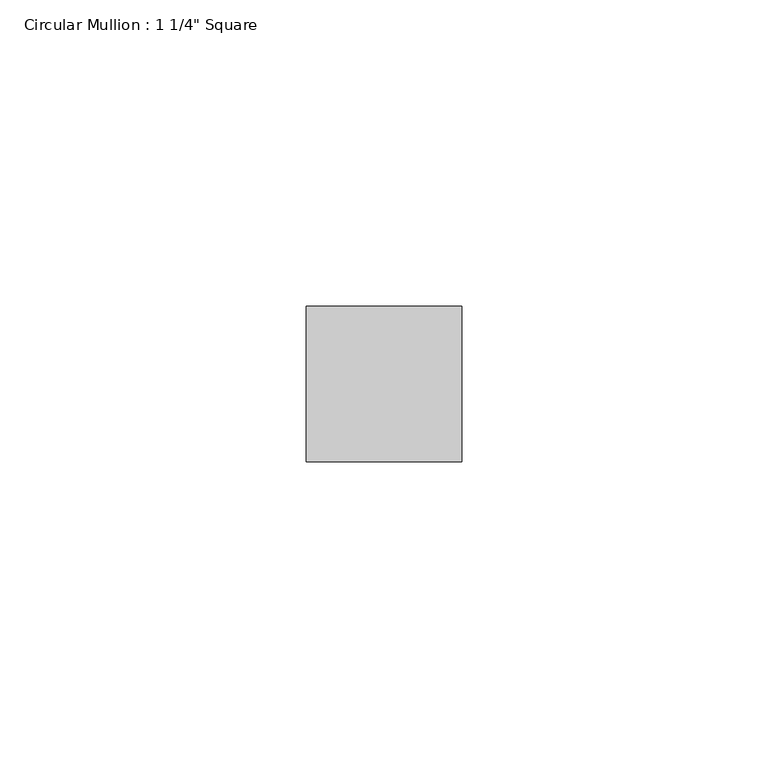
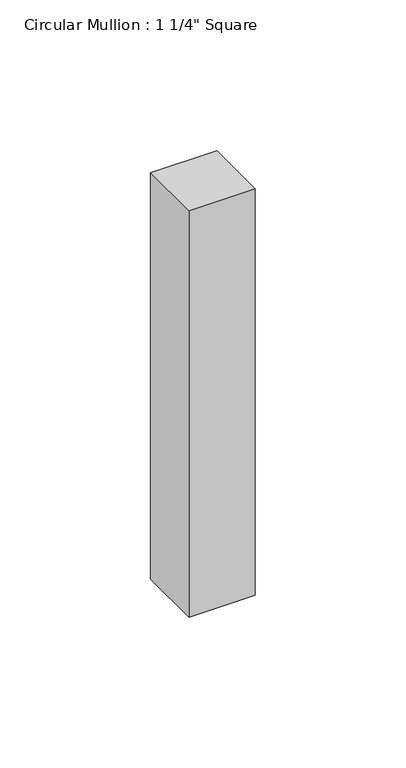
"""IFC4 building model written with IfcOpenShell, lengths in millimetres: member geometry."""

import ifcopenshell
import ifcopenshell.guid

model = None  # the IFC model being written
_history = None  # IfcOwnerHistory: only IFC2X3 demands one
_inside = {}  # id of a spatial element -> (the spatial element, [elements in it])
_under = {}  # id of a project, library or spatial element -> (it, [spatial elements below it])
_declared = {}  # id of a project -> (the project, [libraries it declares])
_typed = {}  # id of a type object -> (the type object, [elements of that type])
_made_of = {}  # id of a material, layer set ... -> (it, [elements and type objects made of it])


def new_model(schema):
    """Start an empty IFC model of exactly this schema.

    Asked for "IFC4X3", IfcOpenShell would pick the latest addendum, in which some entities
    have other attributes; the version numbers below select the first issue.
    IFC2X3 requires an IfcOwnerHistory on every rooted entity: one is made here for all.
    """
    global model, _history
    if schema == "IFC4X3":
        model = ifcopenshell.file(schema_version=(4, 3, 0, 0))
    else:
        model = ifcopenshell.file(schema=schema)
    _inside.clear()
    _under.clear()
    _declared.clear()
    _typed.clear()
    _made_of.clear()
    _history = None
    if model.schema == "IFC2X3":
        org = make("IfcOrganization", Name="unknown")
        user = make(
            "IfcPersonAndOrganization",
            ThePerson=make("IfcPerson", FamilyName="unknown"),
            TheOrganization=org,
        )
        app = make(
            "IfcApplication",
            ApplicationDeveloper=org,
            Version="unknown",
            ApplicationFullName="unknown",
            ApplicationIdentifier="unknown",
        )
        _history = make(
            "IfcOwnerHistory",
            OwningUser=user,
            OwningApplication=app,
            ChangeAction="ADDED",
            CreationDate=0,
        )
    return model


def make(cls, **values):
    """One entity of the class cls with the attributes given. An attribute that is None is left unset."""
    return model.create_entity(
        cls, **{name: value for name, value in values.items() if value is not None}
    )


def rooted(cls, **values):
    """An entity with a GlobalId (a new one), such as an element, a storey or a relation."""
    return make(cls, GlobalId=ifcopenshell.guid.new(), OwnerHistory=_history, **values)


def si_unit(unit_type, name, prefix=None):
    """IfcSIUnit, for example si_unit("LENGTHUNIT", "METRE", prefix="MILLI")."""
    return make("IfcSIUnit", UnitType=unit_type, Prefix=prefix, Name=name)


def assignment(units):
    """IfcUnitAssignment: the units of a project."""
    return None if units is None else make("IfcUnitAssignment", Units=units)


def point(xyz):
    """IfcCartesianPoint."""
    return None if xyz is None else make("IfcCartesianPoint", Coordinates=xyz)


def direction(xyz):
    """IfcDirection."""
    return None if xyz is None else make("IfcDirection", DirectionRatios=xyz)


def frame(location, z_axis=None, x_axis=None):
    """IfcAxis2Placement3D, a coordinate frame: its origin and axes. An axis left out is left unset."""
    return make(
        "IfcAxis2Placement3D",
        Location=point(location),
        Axis=direction(z_axis),
        RefDirection=direction(x_axis),
    )


def origin():
    """The frame at (0, 0, 0) with its axes left unset."""
    return frame((0.0, 0.0, 0.0))


def place(relative_to, where):
    """IfcLocalPlacement: puts the frame where relative to a parent placement (None: the world)."""
    return make(
        "IfcLocalPlacement", PlacementRelTo=relative_to, RelativePlacement=where
    )


def context(
    kind, dimensions, precision=None, world=None, true_north=None, identifier=None
):
    """IfcGeometricRepresentationContext, for example the 3D "Model" context."""
    return make(
        "IfcGeometricRepresentationContext",
        ContextIdentifier=identifier,
        ContextType=kind,
        CoordinateSpaceDimension=dimensions,
        Precision=precision,
        WorldCoordinateSystem=world,
        TrueNorth=true_north,
    )


def project(units=None, contexts=None):
    """IfcProject with its units and contexts."""
    return rooted(
        "IfcProject",
        Name="project",
        RepresentationContexts=contexts,
        UnitsInContext=assignment(units),
    )


def spatial(cls, under=None, at=None, **own):
    """A site, building, storey or space (cls), placed at a placement, below another one or the project."""
    s = rooted(cls, ObjectPlacement=at, **own)
    if under is not None:
        _under.setdefault(under.id(), (under, []))[1].append(s)
    return s


def polyline(points):
    """IfcPolyline through the points."""
    return make("IfcPolyline", Points=[point(p) for p in points])


def outline(outer, holes=None, kind="AREA"):
    """IfcArbitraryClosedProfileDef: a profile drawn as a closed curve; with holes, ...WithVoids."""
    if holes is None:
        return make("IfcArbitraryClosedProfileDef", ProfileType=kind, OuterCurve=outer)
    return make(
        "IfcArbitraryProfileDefWithVoids",
        ProfileType=kind,
        OuterCurve=outer,
        InnerCurves=holes,
    )


def extrude(swept, where, along, depth):
    """IfcExtrudedAreaSolid: the profile swept, set in the frame where, extruded along a direction by depth."""
    return make(
        "IfcExtrudedAreaSolid",
        SweptArea=swept,
        Position=where,
        ExtrudedDirection=direction(along),
        Depth=depth,
    )


def shape(context_of_items, identifier, shape_type, items):
    """IfcShapeRepresentation: the items that make up one representation, for example the "Body"."""
    return make(
        "IfcShapeRepresentation",
        ContextOfItems=context_of_items,
        RepresentationIdentifier=identifier,
        RepresentationType=shape_type,
        Items=items,
    )


def source(mapping_origin, context_of_items, identifier, shape_type, items):
    """IfcRepresentationMap: a shape defined once, which mapped items show again and again."""
    return make(
        "IfcRepresentationMap",
        MappingOrigin=mapping_origin,
        MappedRepresentation=shape(context_of_items, identifier, shape_type, items),
    )


def transform(
    local_origin,
    x_axis=None,
    y_axis=None,
    z_axis=None,
    scale=None,
    scale2=None,
    scale3=None,
    uniform=True,
):
    """IfcCartesianTransformationOperator3D, or its non-uniform kind. x_axis, y_axis, z_axis: its Axis1, 2, 3."""
    if uniform:
        return make(
            "IfcCartesianTransformationOperator3D",
            Axis1=direction(x_axis),
            Axis2=direction(y_axis),
            LocalOrigin=point(local_origin),
            Scale=scale,
            Axis3=direction(z_axis),
        )
    return make(
        "IfcCartesianTransformationOperator3DnonUniform",
        Axis1=direction(x_axis),
        Axis2=direction(y_axis),
        LocalOrigin=point(local_origin),
        Scale=scale,
        Axis3=direction(z_axis),
        Scale2=scale2,
        Scale3=scale3,
    )


def mapped(mapping_source, mapping_target):
    """IfcMappedItem: shows the shape of a source again, moved by a transform."""
    return make(
        "IfcMappedItem", MappingSource=mapping_source, MappingTarget=mapping_target
    )


def made_of(thing, what):
    """Note that an element or type object is made of a material, layer set ...; save() writes the relation."""
    if what is not None:
        _made_of.setdefault(what.id(), (what, []))[1].append(thing)
    return thing


def element(
    cls,
    number,
    at=None,
    inside=None,
    cuts=None,
    type_object=None,
    material=None,
    context=None,
    identifier="Body",
    shape_type=None,
    held_by="IfcProductDefinitionShape",
    body=None,
    shapes=None,
    **own,
):
    """One element of the class cls, such as IfcWall. Its Tag is "e" and its number.

    at: its placement. inside: the storey or other place that contains it. cuts: it is an
    opening in that element (IfcRelVoidsElement). A single representation is given by context,
    identifier, shape_type and body (its items); several are given by shapes. held_by: the class
    of the entity that holds the representations. save() writes the other relations.
    """
    e = rooted(cls, Tag="e%d" % number, ObjectPlacement=at, **own)
    if body is not None:
        shapes = [shape(context, identifier, shape_type, body)]
    if shapes is not None:
        e.Representation = make(held_by, Representations=shapes)
    if inside is not None:
        _inside.setdefault(inside.id(), (inside, []))[1].append(e)
    if cuts is not None:
        rooted(
            "IfcRelVoidsElement", RelatingBuildingElement=cuts, RelatedOpeningElement=e
        )
    if type_object is not None:
        _typed.setdefault(type_object.id(), (type_object, []))[1].append(e)
    return made_of(e, material)


def aggregate(whole, parts):
    """IfcRelAggregates: a whole, such as a stair, and the parts it consists of."""
    return rooted("IfcRelAggregates", RelatingObject=whole, RelatedObjects=parts)


def save(model, path):
    """Write the relations noted so far, then the file.

    IfcRelAggregates (storeys below a building ...), IfcRelContainedInSpatialStructure (elements
    in a storey), IfcRelDefinesByType, IfcRelAssociatesMaterial and IfcRelDeclares: one each for
    every whole, place, type object, material and project.
    """
    for whole, parts in _under.values():
        aggregate(whole, parts)
    for where, things in _inside.values():
        rooted(
            "IfcRelContainedInSpatialStructure",
            RelatedElements=things,
            RelatingStructure=where,
        )
    for kind, things in _typed.values():
        rooted("IfcRelDefinesByType", RelatedObjects=things, RelatingType=kind)
    for what, things in _made_of.values():
        rooted("IfcRelAssociatesMaterial", RelatedObjects=things, RelatingMaterial=what)
    for by, libraries in _declared.values():
        rooted("IfcRelDeclares", RelatingContext=by, RelatedDefinitions=libraries)
    model.write(path)


def member_91c6a23c(model_context):
    return source(origin(), model_context, "Body", "SweptSolid", [
        extrude(outline(polyline([(12.7, 12.7), (12.7, -12.7), (-12.7, -12.7), (-12.7, 12.7), (12.7, 12.7)])), frame((0.0, 0.0, -164.595098), z_axis=(0.0, 0.0, 1.0), x_axis=(1.0, 0.0, 0.0)), (0.0, 0.0, 1.0), 164.595098),
    ])


if __name__ == "__main__":
    model = new_model("IFC4")
    model_context = context("Model", 3, world=origin())
    ifc_project = project(units=[si_unit("LENGTHUNIT", "METRE", prefix="MILLI")], contexts=[model_context])
    site = spatial("IfcSite", under=ifc_project)
    building = spatial("IfcBuilding", under=site)
    placement = place(None, origin())
    member_shape = member_91c6a23c(model_context)
    element("IfcMember", 1, ObjectType="Circular Mullion : 1 1/4\" Square", at=placement, inside=building, context=model_context, shape_type="MappedRepresentation", body=[
        mapped(member_shape, transform((0.0, 0.0, 0.0), x_axis=(1.0, 0.0, 0.0), y_axis=(0.0, 1.0, 0.0), z_axis=(0.0, 0.0, 1.0))),
    ])
    save(model, "model.ifc")
